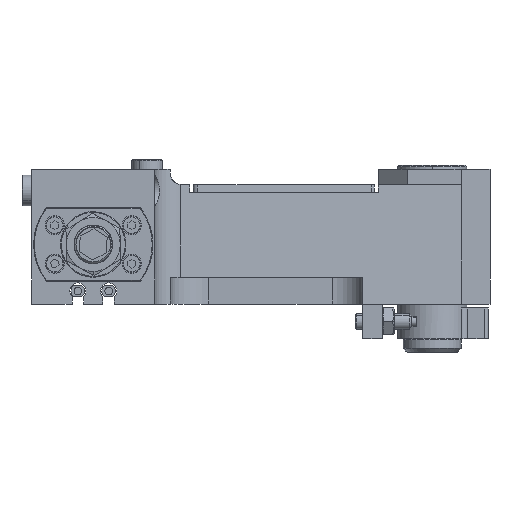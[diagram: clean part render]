
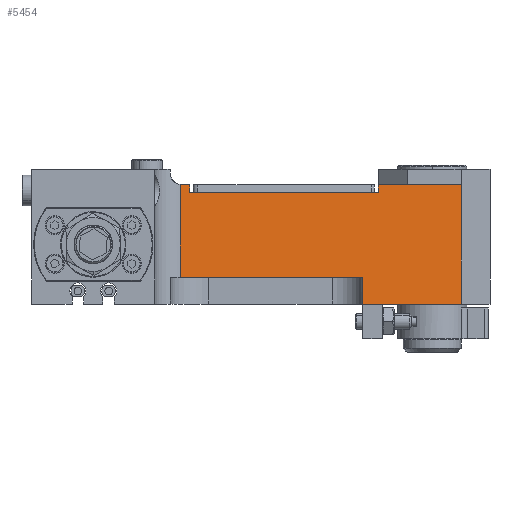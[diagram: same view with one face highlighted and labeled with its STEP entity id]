
A CAD part, left-side view. The second image highlights one B-rep face of the part: STEP entity #5454.
In plain terms, the highlighted planar face has unit normal (-0.985, -0.174, 0).
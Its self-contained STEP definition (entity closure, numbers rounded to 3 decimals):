
#236 = VERTEX_POINT ( 'NONE', #14162 ) ;
#882 = LINE ( 'NONE', #32418, #9599 ) ;
#2025 = DIRECTION ( 'NONE',  ( -0.174, 0.985, 0. ) ) ;
#2358 = CARTESIAN_POINT ( 'NONE',  ( -15., -52., -13. ) ) ;
#3136 = VERTEX_POINT ( 'NONE', #50251 ) ;
#3404 = FACE_OUTER_BOUND ( 'NONE', #37760, .T. ) ;
#3824 = LINE ( 'NONE', #52346, #13831 ) ;
#4323 = CARTESIAN_POINT ( 'NONE',  ( -27.852, 20.889, -6. ) ) ;
#5001 = DIRECTION ( 'NONE',  ( -0.174, 0.985, 0. ) ) ;
#5454 = ADVANCED_FACE ( 'NONE', ( #3404 ), #21761, .F. ) ;
#5821 = CARTESIAN_POINT ( 'NONE',  ( -19.496, -26.5, -22. ) ) ;
#6101 = CARTESIAN_POINT ( 'NONE',  ( -19.496, -26.5, -13. ) ) ;
#7667 = VERTEX_POINT ( 'NONE', #55133 ) ;
#7844 = ORIENTED_EDGE ( 'NONE', *, *, #40835, .T. ) ;
#8229 = EDGE_CURVE ( 'NONE', #11448, #36951, #20663, .T. ) ;
#8338 = CARTESIAN_POINT ( 'NONE',  ( -29.018, 27.5, -6. ) ) ;
#8605 = DIRECTION ( 'NONE',  ( 0., 0., -1. ) ) ;
#9190 = CARTESIAN_POINT ( 'NONE',  ( -29.018, 27.5, 16. ) ) ;
#9272 = EDGE_CURVE ( 'NONE', #24833, #11448, #23437, .T. ) ;
#9599 = VECTOR ( 'NONE', #36733, 1000. ) ;
#9700 = AXIS2_PLACEMENT_3D ( 'NONE', #13596, #39532, #5001 ) ;
#10138 = DIRECTION ( 'NONE',  ( 0., 0., -1. ) ) ;
#10611 = EDGE_CURVE ( 'NONE', #24223, #24833, #11863, .T. ) ;
#11448 = VERTEX_POINT ( 'NONE', #38921 ) ;
#11811 = LINE ( 'NONE', #16919, #43085 ) ;
#11863 = LINE ( 'NONE', #19183, #29874 ) ;
#12765 = EDGE_CURVE ( 'NONE', #29849, #48369, #25969, .T. ) ;
#13135 = LINE ( 'NONE', #8338, #45861 ) ;
#13596 = CARTESIAN_POINT ( 'NONE',  ( -29.018, 27.5, -22. ) ) ;
#13800 = EDGE_CURVE ( 'NONE', #46672, #48369, #882, .T. ) ;
#13831 = VECTOR ( 'NONE', #17459, 1000. ) ;
#14162 = CARTESIAN_POINT ( 'NONE',  ( -27.431, 18.5, 16. ) ) ;
#14728 = CARTESIAN_POINT ( 'NONE',  ( -23.44, -4.133, 18. ) ) ;
#15338 = VECTOR ( 'NONE', #8605, 1000. ) ;
#16287 = ORIENTED_EDGE ( 'NONE', *, *, #12765, .T. ) ;
#16919 = CARTESIAN_POINT ( 'NONE',  ( -15., -52., -22. ) ) ;
#17459 = DIRECTION ( 'NONE',  ( 0., 0., -1. ) ) ;
#17720 = DIRECTION ( 'NONE',  ( 0.174, -0.985, 0. ) ) ;
#19183 = CARTESIAN_POINT ( 'NONE',  ( -23.44, -4.133, 18. ) ) ;
#20663 = LINE ( 'NONE', #25758, #15338 ) ;
#21133 = DIRECTION ( 'NONE',  ( -0.174, 0.985, 0. ) ) ;
#21761 = PLANE ( 'NONE',  #9700 ) ;
#22017 = ORIENTED_EDGE ( 'NONE', *, *, #52010, .T. ) ;
#23437 =( BOUNDED_CURVE ( )  B_SPLINE_CURVE ( 3, ( #35894, #48194, #36093, #31988 ),
 .UNSPECIFIED., .F., .T. ) 
 B_SPLINE_CURVE_WITH_KNOTS ( ( 4, 4 ),
 ( 4.712, 4.842 ),
 .UNSPECIFIED. ) 
 CURVE ( )  GEOMETRIC_REPRESENTATION_ITEM ( )  RATIONAL_B_SPLINE_CURVE ( ( 1., 0.999, 0.999, 1. ) ) 
 REPRESENTATION_ITEM ( '' )  );
#24223 = VERTEX_POINT ( 'NONE', #39551 ) ;
#24833 = VERTEX_POINT ( 'NONE', #27908 ) ;
#25320 = ORIENTED_EDGE ( 'NONE', *, *, #31381, .T. ) ;
#25758 = CARTESIAN_POINT ( 'NONE',  ( -27.852, 20.889, -13. ) ) ;
#25969 = LINE ( 'NONE', #5821, #29970 ) ;
#26553 = DIRECTION ( 'NONE',  ( 0., 0., 1. ) ) ;
#27908 = CARTESIAN_POINT ( 'NONE',  ( -27.784, 20.5, 18. ) ) ;
#29849 = VERTEX_POINT ( 'NONE', #40252 ) ;
#29874 = VECTOR ( 'NONE', #37363, 1000. ) ;
#29898 = VECTOR ( 'NONE', #17720, 1000. ) ;
#29970 = VECTOR ( 'NONE', #10138, 1000. ) ;
#31381 = EDGE_CURVE ( 'NONE', #7667, #3136, #37709, .T. ) ;
#31861 = ORIENTED_EDGE ( 'NONE', *, *, #36461, .T. ) ;
#31988 = CARTESIAN_POINT ( 'NONE',  ( -27.852, 20.889, 18.025 ) ) ;
#32418 = CARTESIAN_POINT ( 'NONE',  ( -29.018, 27.5, -13. ) ) ;
#33031 = VECTOR ( 'NONE', #2025, 1000. ) ;
#33924 = LINE ( 'NONE', #9190, #29898 ) ;
#34870 = LINE ( 'NONE', #52086, #46207 ) ;
#35894 = CARTESIAN_POINT ( 'NONE',  ( -27.784, 20.5, 18. ) ) ;
#36093 = CARTESIAN_POINT ( 'NONE',  ( -27.83, 20.76, 18.008 ) ) ;
#36461 = EDGE_CURVE ( 'NONE', #236, #24223, #34870, .T. ) ;
#36733 = DIRECTION ( 'NONE',  ( -0.174, 0.985, 0. ) ) ;
#36951 = VERTEX_POINT ( 'NONE', #4323 ) ;
#37363 = DIRECTION ( 'NONE',  ( -0.174, 0.985, 0. ) ) ;
#37709 = LINE ( 'NONE', #14728, #33031 ) ;
#37760 = EDGE_LOOP ( 'NONE', ( #41343, #54022, #38158, #42991, #16287, #48583, #7844, #25320, #22017, #45096, #31861 ) ) ;
#38158 = ORIENTED_EDGE ( 'NONE', *, *, #8229, .T. ) ;
#38266 = DIRECTION ( 'NONE',  ( 0., 0., 1. ) ) ;
#38921 = CARTESIAN_POINT ( 'NONE',  ( -27.852, 20.889, 18.025 ) ) ;
#39532 = DIRECTION ( 'NONE',  ( 0.985, 0.174, 0. ) ) ;
#39551 = CARTESIAN_POINT ( 'NONE',  ( -27.431, 18.5, 18. ) ) ;
#40252 = CARTESIAN_POINT ( 'NONE',  ( -19.496, -26.5, -6. ) ) ;
#40835 = EDGE_CURVE ( 'NONE', #46672, #7667, #11811, .T. ) ;
#41343 = ORIENTED_EDGE ( 'NONE', *, *, #10611, .T. ) ;
#42991 = ORIENTED_EDGE ( 'NONE', *, *, #52341, .F. ) ;
#43085 = VECTOR ( 'NONE', #38266, 1000. ) ;
#45096 = ORIENTED_EDGE ( 'NONE', *, *, #47624, .F. ) ;
#45413 = VERTEX_POINT ( 'NONE', #51870 ) ;
#45861 = VECTOR ( 'NONE', #21133, 1000. ) ;
#46207 = VECTOR ( 'NONE', #26553, 1000. ) ;
#46672 = VERTEX_POINT ( 'NONE', #2358 ) ;
#47624 = EDGE_CURVE ( 'NONE', #236, #45413, #33924, .T. ) ;
#48194 = CARTESIAN_POINT ( 'NONE',  ( -27.807, 20.63, 18. ) ) ;
#48369 = VERTEX_POINT ( 'NONE', #6101 ) ;
#48583 = ORIENTED_EDGE ( 'NONE', *, *, #13800, .F. ) ;
#50251 = CARTESIAN_POINT ( 'NONE',  ( -18.791, -30.5, 18. ) ) ;
#51870 = CARTESIAN_POINT ( 'NONE',  ( -18.791, -30.5, 16. ) ) ;
#52010 = EDGE_CURVE ( 'NONE', #3136, #45413, #3824, .T. ) ;
#52086 = CARTESIAN_POINT ( 'NONE',  ( -27.431, 18.5, -22. ) ) ;
#52341 = EDGE_CURVE ( 'NONE', #29849, #36951, #13135, .T. ) ;
#52346 = CARTESIAN_POINT ( 'NONE',  ( -18.791, -30.5, -22. ) ) ;
#54022 = ORIENTED_EDGE ( 'NONE', *, *, #9272, .T. ) ;
#55133 = CARTESIAN_POINT ( 'NONE',  ( -15., -52., 18. ) ) ;
